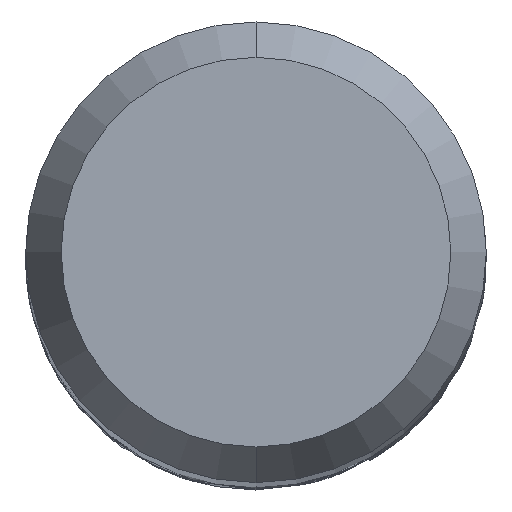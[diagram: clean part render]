
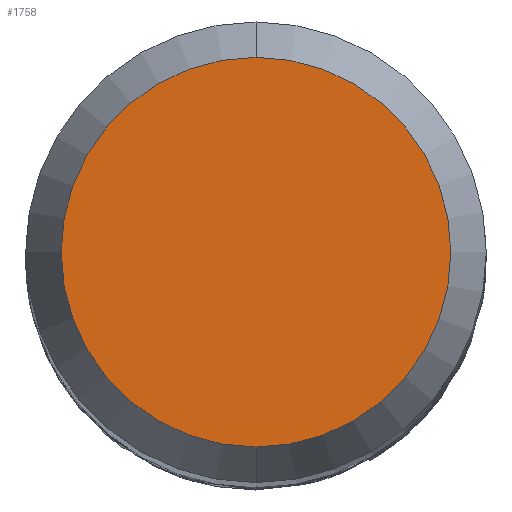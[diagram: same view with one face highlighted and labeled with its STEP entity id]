
A CAD part, top view. The second image highlights one B-rep face of the part: STEP entity #1758.
In plain terms, the highlighted planar face has unit normal (0, 0, 1).
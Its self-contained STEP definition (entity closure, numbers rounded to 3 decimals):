
#1198=VERTEX_POINT('',#2498);
#1332=EDGE_CURVE('',#1598,#1198,#2647,.T.);
#1434=EDGE_CURVE('',#1198,#1598,#2766,.T.);
#1598=VERTEX_POINT('',#2941);
#1758=ADVANCED_FACE('',(#3116),#3117,.T.);
#2498=CARTESIAN_POINT('',(0.,-2.538,0.0));
#2647=CIRCLE('',#9603,2.538);
#2766=CIRCLE('',#10474,2.538);
#2941=CARTESIAN_POINT('',(0.0,2.538,0.0));
#3116=FACE_OUTER_BOUND('',#14780,.T.);
#3117=PLANE('',#14781);
#9603=AXIS2_PLACEMENT_3D('',#16684,#16685,#16686);
#10474=AXIS2_PLACEMENT_3D('',#16862,#16863,#16864);
#14780=EDGE_LOOP('',(#17176,#17177));
#14781=AXIS2_PLACEMENT_3D('',#17178,#17179,#17180);
#16684=CARTESIAN_POINT('',(0.0,0.0,0.0));
#16685=DIRECTION('',(0.0,0.0,-1.0));
#16686=DIRECTION('',(0.0,1.0,0.0));
#16862=CARTESIAN_POINT('',(0.0,0.0,0.0));
#16863=DIRECTION('',(0.0,0.0,-1.0));
#16864=DIRECTION('',(0.0,1.0,0.0));
#17176=ORIENTED_EDGE('',*,*,#1332,.F.);
#17177=ORIENTED_EDGE('',*,*,#1434,.F.);
#17178=CARTESIAN_POINT('',(0.0,1.269,0.0));
#17179=DIRECTION('',(-0.0,0.0,1.0));
#17180=DIRECTION('',(0.0,-1.0,0.0));
